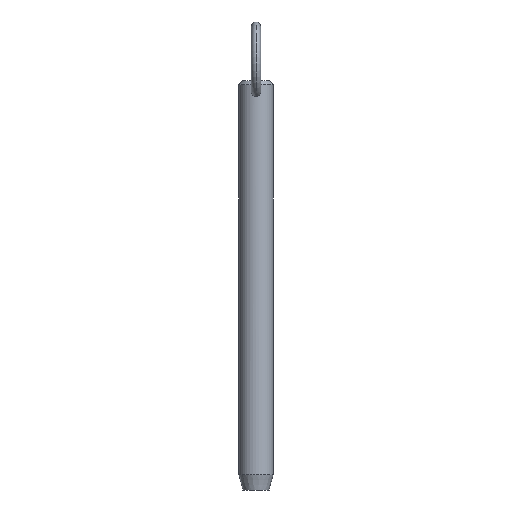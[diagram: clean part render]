
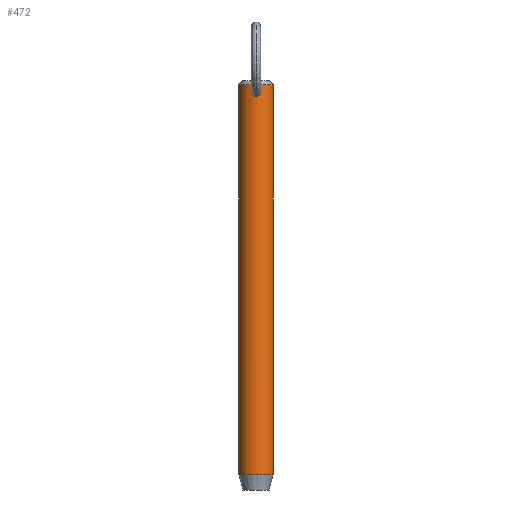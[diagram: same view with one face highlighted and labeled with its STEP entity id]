
A CAD part, front view. The second image highlights one B-rep face of the part: STEP entity #472.
In plain terms, the highlighted cylindrical face has radius 5.55 mm (diameter 11.1 mm), a partial arc.
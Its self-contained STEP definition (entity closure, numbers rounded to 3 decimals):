
#1 = CARTESIAN_POINT ( 'NONE',  ( -0.523, -5.526, 113.166 ) ) ;
#11 = CARTESIAN_POINT ( 'NONE',  ( -1.477, -5.35, 114.342 ) ) ;
#14 = VERTEX_POINT ( 'NONE', #194 ) ;
#16 = CARTESIAN_POINT ( 'NONE',  ( -1.195, -5.421, 115.771 ) ) ;
#18 = CARTESIAN_POINT ( 'NONE',  ( -0.939, -5.472, 116.11 ) ) ;
#34 = ORIENTED_EDGE ( 'NONE', *, *, #501, .T. ) ;
#38 = CARTESIAN_POINT ( 'NONE',  ( 5.55, 0., -9.2 ) ) ;
#43 = LINE ( 'NONE', #483, #489 ) ;
#55 = VERTEX_POINT ( 'NONE', #191 ) ;
#56 = CARTESIAN_POINT ( 'NONE',  ( 0., 0., 116.85 ) ) ;
#59 = CARTESIAN_POINT ( 'NONE',  ( 0., -5.55, 116.545 ) ) ;
#60 = CARTESIAN_POINT ( 'NONE',  ( 0., -5.55, 116.545 ) ) ;
#64 = CARTESIAN_POINT ( 'NONE',  ( 0.977, -5.464, 113.432 ) ) ;
#67 = CARTESIAN_POINT ( 'NONE',  ( 0.213, -5.547, 113.088 ) ) ;
#81 = ORIENTED_EDGE ( 'NONE', *, *, #256, .F. ) ;
#89 = VERTEX_POINT ( 'NONE', #38 ) ;
#93 = CARTESIAN_POINT ( 'NONE',  ( -1.503, -5.343, 114.659 ) ) ;
#95 = DIRECTION ( 'NONE',  ( 1., 0., 0. ) ) ;
#98 = CARTESIAN_POINT ( 'NONE',  ( -5.55, 0., 116.85 ) ) ;
#102 = CARTESIAN_POINT ( 'NONE',  ( 0.106, -5.55, 116.545 ) ) ;
#107 = CARTESIAN_POINT ( 'NONE',  ( 0.523, -5.526, 113.166 ) ) ;
#114 = VECTOR ( 'NONE', #319, 1000. ) ;
#121 = CARTESIAN_POINT ( 'NONE',  ( -0.807, -5.492, 113.305 ) ) ;
#122 = EDGE_LOOP ( 'NONE', ( #446, #157 ) ) ;
#123 = CARTESIAN_POINT ( 'NONE',  ( 0., 0., -9.2 ) ) ;
#130 = CARTESIAN_POINT ( 'NONE',  ( 0.941, -5.471, 116.107 ) ) ;
#132 = DIRECTION ( 'NONE',  ( 0., 0., -1. ) ) ;
#138 = CARTESIAN_POINT ( 'NONE',  ( -0.513, -5.527, 116.423 ) ) ;
#144 = CARTESIAN_POINT ( 'NONE',  ( 0.107, -5.55, 113.077 ) ) ;
#149 = CARTESIAN_POINT ( 'NONE',  ( 1.477, -5.35, 114.344 ) ) ;
#157 = ORIENTED_EDGE ( 'NONE', *, *, #372, .T. ) ;
#165 = CARTESIAN_POINT ( 'NONE',  ( -0.976, -5.464, 113.431 ) ) ;
#172 = CARTESIAN_POINT ( 'NONE',  ( -0.106, -5.55, 116.545 ) ) ;
#180 = CARTESIAN_POINT ( 'NONE',  ( 1.503, -5.343, 114.659 ) ) ;
#189 = ORIENTED_EDGE ( 'NONE', *, *, #362, .T. ) ;
#191 = CARTESIAN_POINT ( 'NONE',  ( 5.55, 0., 116.85 ) ) ;
#194 = CARTESIAN_POINT ( 'NONE',  ( 0., -5.55, 113.077 ) ) ;
#202 = CARTESIAN_POINT ( 'NONE',  ( -1.455, -5.356, 114.236 ) ) ;
#203 = CARTESIAN_POINT ( 'NONE',  ( 0.515, -5.527, 116.422 ) ) ;
#205 = CARTESIAN_POINT ( 'NONE',  ( -1.26, -5.407, 113.742 ) ) ;
#207 = CARTESIAN_POINT ( 'NONE',  ( 0., -5.55, 116.545 ) ) ;
#215 = LINE ( 'NONE', #242, #114 ) ;
#216 = VERTEX_POINT ( 'NONE', #359 ) ;
#219 = FACE_OUTER_BOUND ( 'NONE', #264, .T. ) ;
#220 = AXIS2_PLACEMENT_3D ( 'NONE', #123, #448, #400 ) ;
#221 = CARTESIAN_POINT ( 'NONE',  ( 1.44, -5.36, 115.186 ) ) ;
#223 = EDGE_CURVE ( 'NONE', #216, #89, #429, .T. ) ;
#233 = CARTESIAN_POINT ( 'NONE',  ( -0.107, -5.55, 113.077 ) ) ;
#242 = CARTESIAN_POINT ( 'NONE',  ( -5.55, 0., 111.8 ) ) ;
#253 = CARTESIAN_POINT ( 'NONE',  ( -1.44, -5.36, 115.187 ) ) ;
#254 = CARTESIAN_POINT ( 'NONE',  ( 0.214, -5.547, 116.528 ) ) ;
#256 = EDGE_CURVE ( 'NONE', #55, #89, #43, .T. ) ;
#259 = CARTESIAN_POINT ( 'NONE',  ( 0., -5.55, 113.077 ) ) ;
#264 = EDGE_LOOP ( 'NONE', ( #81, #34, #189, #455 ) ) ;
#267 = VERTEX_POINT ( 'NONE', #98 ) ;
#269 = FACE_BOUND ( 'NONE', #122, .T. ) ;
#277 = CARTESIAN_POINT ( 'NONE',  ( -1.054, -5.449, 113.504 ) ) ;
#284 = DIRECTION ( 'NONE',  ( 0., 0., -1. ) ) ;
#291 = CIRCLE ( 'NONE', #445, 5.55 ) ;
#294 = CARTESIAN_POINT ( 'NONE',  ( 0.421, -5.535, 113.132 ) ) ;
#299 = CARTESIAN_POINT ( 'NONE',  ( 1.295, -5.397, 115.582 ) ) ;
#303 = CARTESIAN_POINT ( 'NONE',  ( 1.455, -5.356, 114.238 ) ) ;
#316 = CARTESIAN_POINT ( 'NONE',  ( -0.212, -5.547, 113.088 ) ) ;
#319 = DIRECTION ( 'NONE',  ( 0., 0., -1. ) ) ;
#327 = CARTESIAN_POINT ( 'NONE',  ( -1.294, -5.398, 115.586 ) ) ;
#330 = CARTESIAN_POINT ( 'NONE',  ( 0., 0., 111.8 ) ) ;
#332 = CARTESIAN_POINT ( 'NONE',  ( 0.417, -5.535, 116.467 ) ) ;
#334 = CARTESIAN_POINT ( 'NONE',  ( 0.807, -5.492, 113.306 ) ) ;
#336 = CARTESIAN_POINT ( 'NONE',  ( 0.716, -5.504, 113.252 ) ) ;
#337 = EDGE_CURVE ( 'NONE', #486, #14, #430, .T. ) ;
#340 = CARTESIAN_POINT ( 'NONE',  ( 1.363, -5.38, 113.934 ) ) ;
#359 = CARTESIAN_POINT ( 'NONE',  ( -5.55, 0., -9.2 ) ) ;
#360 = CARTESIAN_POINT ( 'NONE',  ( -0.716, -5.504, 113.252 ) ) ;
#361 = CARTESIAN_POINT ( 'NONE',  ( -0.42, -5.535, 113.132 ) ) ;
#362 = EDGE_CURVE ( 'NONE', #267, #216, #215, .T. ) ;
#366 = DIRECTION ( 'NONE',  ( 0., 0., -1. ) ) ;
#370 = CARTESIAN_POINT ( 'NONE',  ( -0.416, -5.535, 116.467 ) ) ;
#372 = EDGE_CURVE ( 'NONE', #14, #486, #474, .T. ) ;
#375 = CARTESIAN_POINT ( 'NONE',  ( -0.211, -5.547, 116.529 ) ) ;
#383 = CYLINDRICAL_SURFACE ( 'NONE', #389, 5.55 ) ;
#389 = AXIS2_PLACEMENT_3D ( 'NONE', #330, #284, #462 ) ;
#400 = DIRECTION ( 'NONE',  ( -1., 0., 0. ) ) ;
#408 = CARTESIAN_POINT ( 'NONE',  ( 1.194, -5.422, 115.771 ) ) ;
#414 = CARTESIAN_POINT ( 'NONE',  ( -0.785, -5.497, 116.258 ) ) ;
#417 = CARTESIAN_POINT ( 'NONE',  ( 1.26, -5.407, 113.743 ) ) ;
#429 = CIRCLE ( 'NONE', #220, 5.55 ) ;
#430 = B_SPLINE_CURVE_WITH_KNOTS ( 'NONE', 3,
 ( #60, #102, #254, #332, #203, #496, #130, #408, #299, #221, #466, #180, #469, #149, #303, #340, #417, #509, #64, #334, #336, #107, #294, #67, #144, #259 ),
 .UNSPECIFIED., .F., .F.,
 ( 4, 2, 2, 2, 2, 2, 2, 2, 2, 2, 2, 2, 4 ),
 ( 0.005, 0.005, 0.005, 0.006, 0.006, 0.007, 0.007, 0.008, 0.008, 0.009, 0.009, 0.009, 0.01 ),
 .UNSPECIFIED. ) ;
#445 = AXIS2_PLACEMENT_3D ( 'NONE', #56, #132, #95 ) ;
#446 = ORIENTED_EDGE ( 'NONE', *, *, #337, .T. ) ;
#448 = DIRECTION ( 'NONE',  ( 0., 0., 1. ) ) ;
#450 = CARTESIAN_POINT ( 'NONE',  ( -1.362, -5.381, 113.932 ) ) ;
#455 = ORIENTED_EDGE ( 'NONE', *, *, #223, .T. ) ;
#462 = DIRECTION ( 'NONE',  ( -1., 0., 0. ) ) ;
#466 = CARTESIAN_POINT ( 'NONE',  ( 1.486, -5.347, 114.974 ) ) ;
#469 = CARTESIAN_POINT ( 'NONE',  ( 1.5, -5.343, 114.554 ) ) ;
#472 = ADVANCED_FACE ( 'NONE', ( #219, #269 ), #383, .T. ) ;
#474 = B_SPLINE_CURVE_WITH_KNOTS ( 'NONE', 3,
 ( #500, #233, #316, #361, #1, #360, #121, #165, #277, #205, #450, #202, #11, #493, #93, #498, #253, #327, #16, #18, #414, #138, #370, #375, #172, #59 ),
 .UNSPECIFIED., .F., .F.,
 ( 4, 2, 2, 2, 2, 2, 2, 2, 2, 2, 2, 2, 4 ),
 ( 0.01, 0.01, 0.01, 0.011, 0.011, 0.012, 0.012, 0.012, 0.013, 0.013, 0.014, 0.014, 0.015 ),
 .UNSPECIFIED. ) ;
#483 = CARTESIAN_POINT ( 'NONE',  ( 5.55, 0., 111.8 ) ) ;
#486 = VERTEX_POINT ( 'NONE', #207 ) ;
#489 = VECTOR ( 'NONE', #366, 1000. ) ;
#493 = CARTESIAN_POINT ( 'NONE',  ( -1.5, -5.343, 114.553 ) ) ;
#496 = CARTESIAN_POINT ( 'NONE',  ( 0.786, -5.497, 116.257 ) ) ;
#498 = CARTESIAN_POINT ( 'NONE',  ( -1.485, -5.348, 114.979 ) ) ;
#500 = CARTESIAN_POINT ( 'NONE',  ( 0., -5.55, 113.077 ) ) ;
#501 = EDGE_CURVE ( 'NONE', #55, #267, #291, .T. ) ;
#509 = CARTESIAN_POINT ( 'NONE',  ( 1.055, -5.449, 113.505 ) ) ;
